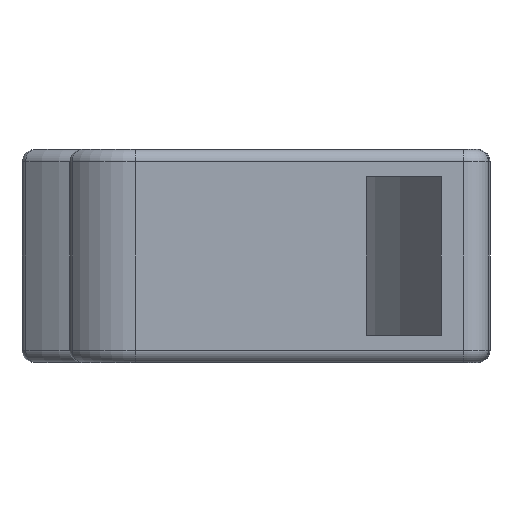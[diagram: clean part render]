
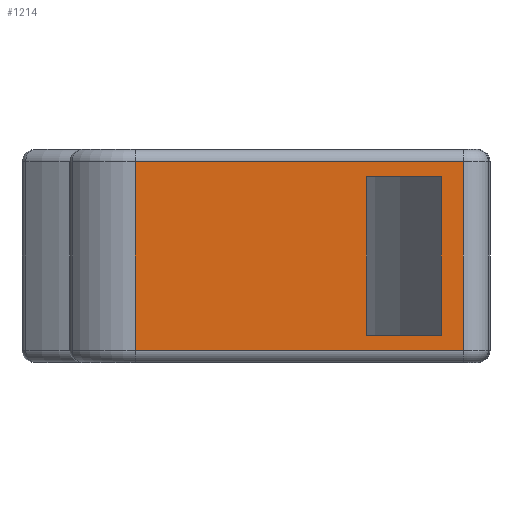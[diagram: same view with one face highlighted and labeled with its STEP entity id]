
A CAD part, left-side view. The second image highlights one B-rep face of the part: STEP entity #1214.
In plain terms, the highlighted planar face has unit normal (-1, 0, 0).
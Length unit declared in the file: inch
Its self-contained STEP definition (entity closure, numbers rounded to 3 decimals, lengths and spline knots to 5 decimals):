
#51 = ORIENTED_EDGE ( 'NONE', *, *, #200, .F. ) ;
#200 = EDGE_CURVE ( 'NONE', #4182, #4586, #2991, .T. ) ;
#283 = VECTOR ( 'NONE', #5420, 39.37008 ) ;
#322 = ORIENTED_EDGE ( 'NONE', *, *, #5281, .T. ) ;
#339 = CARTESIAN_POINT ( 'NONE',  ( -0.94229, 3.52115, 0. ) ) ;
#342 = VECTOR ( 'NONE', #4234, 39.37008 ) ;
#361 = ORIENTED_EDGE ( 'NONE', *, *, #1175, .T. ) ;
#489 = LINE ( 'NONE', #5457, #2856 ) ;
#564 = CARTESIAN_POINT ( 'NONE',  ( -0.94229, 3.06087, 0.055 ) ) ;
#623 = DIRECTION ( 'NONE',  ( 0., -1., 0. ) ) ;
#714 = ORIENTED_EDGE ( 'NONE', *, *, #2929, .T. ) ;
#875 = VERTEX_POINT ( 'NONE', #6240 ) ;
#956 = FACE_BOUND ( 'NONE', #5456, .T. ) ;
#1175 = EDGE_CURVE ( 'NONE', #3346, #2449, #489, .T. ) ;
#1194 = DIRECTION ( 'NONE',  ( 0., 0., -1. ) ) ;
#1214 = ADVANCED_FACE ( 'NONE', ( #956, #6053 ), #3176, .T. ) ;
#1400 = LINE ( 'NONE', #339, #283 ) ;
#1531 = CARTESIAN_POINT ( 'NONE',  ( -0.94229, 2.86712, 0.025 ) ) ;
#1602 = EDGE_CURVE ( 'NONE', #1882, #2449, #1400, .T. ) ;
#1654 = DIRECTION ( 'NONE',  ( 0., 1., 0. ) ) ;
#1768 = DIRECTION ( 'NONE',  ( 0., -1., 0. ) ) ;
#1882 = VERTEX_POINT ( 'NONE', #4063 ) ;
#2106 = VECTOR ( 'NONE', #1194, 39.37008 ) ;
#2217 = EDGE_CURVE ( 'NONE', #4344, #4182, #2956, .T. ) ;
#2223 = LINE ( 'NONE', #5510, #2106 ) ;
#2449 = VERTEX_POINT ( 'NONE', #4519 ) ;
#2594 = LINE ( 'NONE', #2672, #342 ) ;
#2672 = CARTESIAN_POINT ( 'NONE',  ( -0.94229, 2.86712, 0. ) ) ;
#2707 = ORIENTED_EDGE ( 'NONE', *, *, #3180, .F. ) ;
#2856 = VECTOR ( 'NONE', #1654, 39.37008 ) ;
#2929 = EDGE_CURVE ( 'NONE', #1882, #6820, #6275, .T. ) ;
#2956 = LINE ( 'NONE', #4500, #5291 ) ;
#2991 = LINE ( 'NONE', #6336, #3520 ) ;
#3176 = PLANE ( 'NONE',  #4608 ) ;
#3180 = EDGE_CURVE ( 'NONE', #4586, #875, #6671, .T. ) ;
#3255 = DIRECTION ( 'NONE',  ( 0., 0., 1. ) ) ;
#3346 = VERTEX_POINT ( 'NONE', #4138 ) ;
#3520 = VECTOR ( 'NONE', #4678, 39.37008 ) ;
#3652 = CARTESIAN_POINT ( 'NONE',  ( -0.94229, 2.91087, 0.37 ) ) ;
#3678 = ORIENTED_EDGE ( 'NONE', *, *, #1602, .F. ) ;
#4063 = CARTESIAN_POINT ( 'NONE',  ( -0.94229, 3.52115, 0.025 ) ) ;
#4138 = CARTESIAN_POINT ( 'NONE',  ( -0.94229, 2.86712, 0.4 ) ) ;
#4182 = VERTEX_POINT ( 'NONE', #5273 ) ;
#4234 = DIRECTION ( 'NONE',  ( 0., 0., 1. ) ) ;
#4344 = VERTEX_POINT ( 'NONE', #564 ) ;
#4383 = VECTOR ( 'NONE', #1768, 39.37008 ) ;
#4500 = CARTESIAN_POINT ( 'NONE',  ( -0.94229, 3.06087, 0.055 ) ) ;
#4519 = CARTESIAN_POINT ( 'NONE',  ( -0.94229, 3.52115, 0.4 ) ) ;
#4586 = VERTEX_POINT ( 'NONE', #3652 ) ;
#4608 = AXIS2_PLACEMENT_3D ( 'NONE', #5415, #6599, #3255 ) ;
#4678 = DIRECTION ( 'NONE',  ( 0., 0., 1. ) ) ;
#5010 = CARTESIAN_POINT ( 'NONE',  ( -0.94229, 3.06087, 0.37 ) ) ;
#5273 = CARTESIAN_POINT ( 'NONE',  ( -0.94229, 2.91087, 0.055 ) ) ;
#5281 = EDGE_CURVE ( 'NONE', #6820, #3346, #2594, .T. ) ;
#5291 = VECTOR ( 'NONE', #623, 39.37008 ) ;
#5415 = CARTESIAN_POINT ( 'NONE',  ( -0.94229, 3.52115, 0. ) ) ;
#5420 = DIRECTION ( 'NONE',  ( 0., 0., 1. ) ) ;
#5456 = EDGE_LOOP ( 'NONE', ( #6699, #2707, #51, #6561 ) ) ;
#5457 = CARTESIAN_POINT ( 'NONE',  ( -0.94229, 3.52115, 0.4 ) ) ;
#5510 = CARTESIAN_POINT ( 'NONE',  ( -0.94229, 3.06087, 0.055 ) ) ;
#5748 = CARTESIAN_POINT ( 'NONE',  ( -0.94229, 3.52115, 0.025 ) ) ;
#5790 = EDGE_CURVE ( 'NONE', #875, #4344, #2223, .T. ) ;
#5835 = EDGE_LOOP ( 'NONE', ( #322, #361, #3678, #714 ) ) ;
#6053 = FACE_OUTER_BOUND ( 'NONE', #5835, .T. ) ;
#6240 = CARTESIAN_POINT ( 'NONE',  ( -0.94229, 3.06087, 0.37 ) ) ;
#6266 = VECTOR ( 'NONE', #7235, 39.37008 ) ;
#6275 = LINE ( 'NONE', #5748, #4383 ) ;
#6336 = CARTESIAN_POINT ( 'NONE',  ( -0.94229, 2.91087, 0.055 ) ) ;
#6561 = ORIENTED_EDGE ( 'NONE', *, *, #2217, .F. ) ;
#6599 = DIRECTION ( 'NONE',  ( -1., 0., 0. ) ) ;
#6671 = LINE ( 'NONE', #5010, #6266 ) ;
#6699 = ORIENTED_EDGE ( 'NONE', *, *, #5790, .F. ) ;
#6820 = VERTEX_POINT ( 'NONE', #1531 ) ;
#7235 = DIRECTION ( 'NONE',  ( 0., 1., 0. ) ) ;
